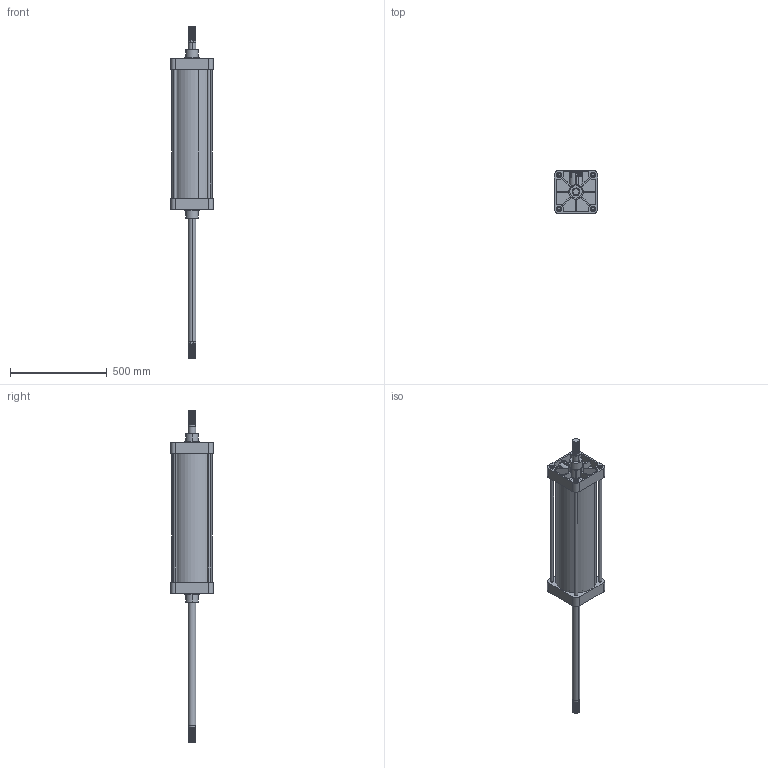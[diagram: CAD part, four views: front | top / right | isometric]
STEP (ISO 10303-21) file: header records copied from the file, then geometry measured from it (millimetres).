
FILE_DESCRIPTION (( 'STEP AP203' ), '1' );
FILE_NAME ('XJ200.0600P.STEP', '2005-09-27T12:48:47', ( 'luigip' ), ( '' ), 'SwSTEP 2.0', 'SolidWorks 2005187', '' );
FILE_SCHEMA (( 'CONFIG_CONTROL_DESIGN' ));
Length unit declared in the file: millimetre
Products named in the file (5): XJ200.0600P; FRONT END CAP-XJ200; BARREL-XJ200_STROKE 0600P; PISTON ROD-XJ200_STROKE 0600P; TIE ROD-XJ200_STROKE 0600P
Assembly tree (8 placements, depth 2):
  XJ200.0600P
    TIE ROD-XJ200_STROKE 0600P  x4
    FRONT END CAP-XJ200  x2
    BARREL-XJ200_STROKE 0600P
    PISTON ROD-XJ200_STROKE 0600P
Bounding box: 222 x 222 x 1714 mm (x, y, z)
Volume: 9749487.7 mm3; surface area: 1915041.3 mm2
Topology: 8 solids, 10 shells, 1623 faces, 3450 edges, 2040 vertices
Faces by surface type: cone 1024, plane 401, cylinder 194, torus 4
Entity records: 28582 total; most frequent: DIRECTION 5423, CARTESIAN_POINT 4726, ORIENTED_EDGE 4370, AXIS2_PLACEMENT_3D 2206, EDGE_CURVE 2185, VERTEX_POINT 1324, EDGE_LOOP 1223, CIRCLE 1155
